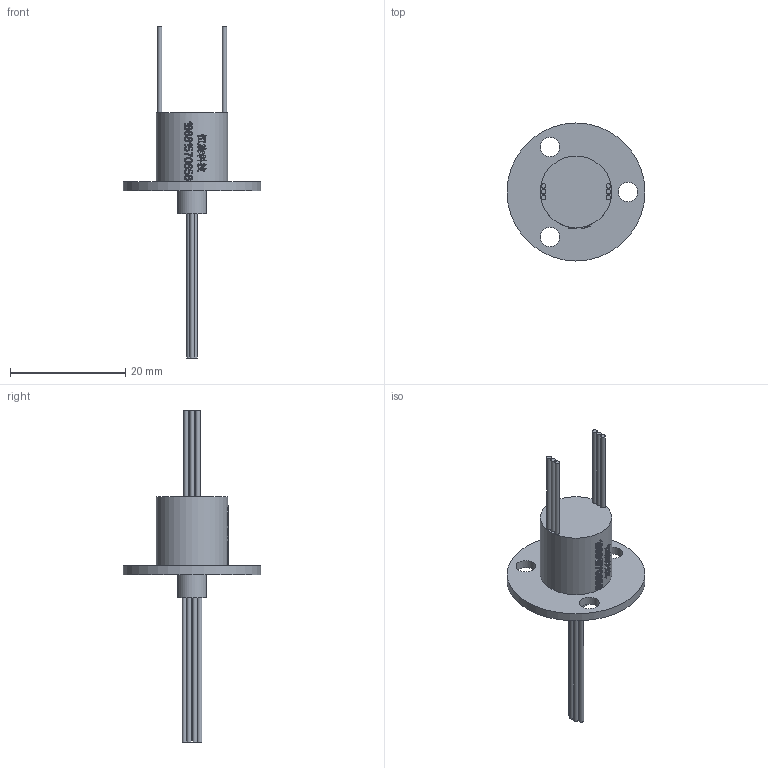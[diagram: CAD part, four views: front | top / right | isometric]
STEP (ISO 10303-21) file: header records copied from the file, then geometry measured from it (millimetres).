
FILE_DESCRIPTION(/* description */ (''),/* implementation_level */ '2;1');
FILE_NAME(/* name */ 'HM012-06.stp',/* time_stamp */ '2025-09-05T08:21:40+08:00',/* author */ (''),/* organization */ (''),/* preprocessor_version */ 'ST-DEVELOPER v16.7',/* originating_system */ 'SIEMENS PLM Software NX 12.0',/* authorisation */ '');
FILE_SCHEMA (('AUTOMOTIVE_DESIGN { 1 0 10303 214 3 1 1 1 }'));
Length unit declared in the file: millimetre
Products named in the file (1): Admi30D0F06639y9
Bounding box: 23.9 x 23.9 x 57.5 mm (x, y, z)
Volume: 2281.7 mm3; surface area: 2162.2 mm2
Topology: 1 solids, 1 shells, 563 faces, 1532 edges, 1022 vertices
Faces by surface type: extrusion 311, plane 197, cylinder 29, bspline 26
Full cylindrical faces by diameter (mm): 0.8 x12, 3.4 x3, 5 x1, 12.4 x1, 23.9 x1
Entity records: 23419 total; most frequent: CARTESIAN_POINT 11599, ORIENTED_EDGE 3024, B_SPLINE_CURVE_WITH_KNOTS 1557, EDGE_CURVE 1512, DIRECTION 1199, VERTEX_POINT 1020, EDGE_LOOP 638, ADVANCED_FACE 563
